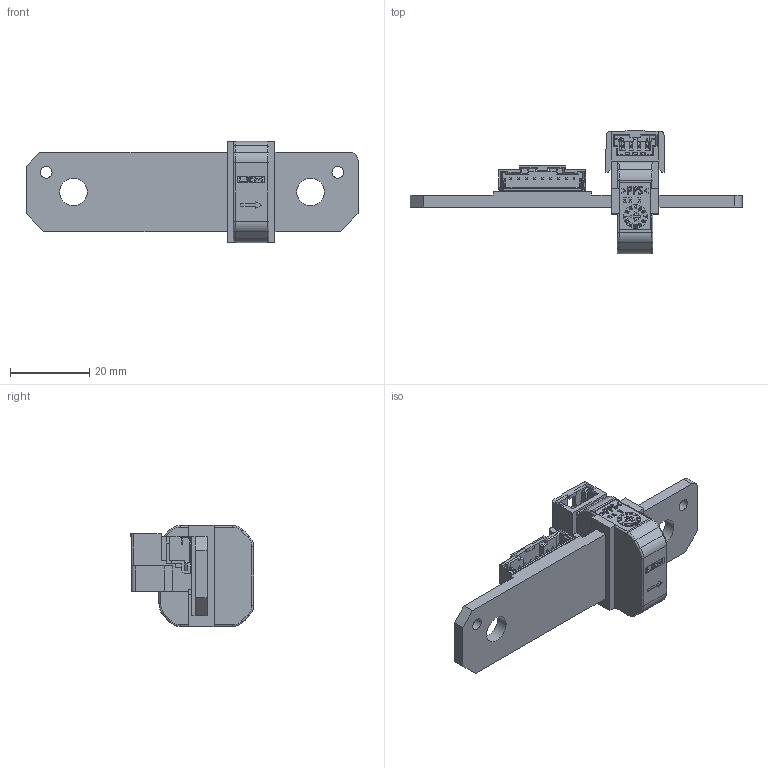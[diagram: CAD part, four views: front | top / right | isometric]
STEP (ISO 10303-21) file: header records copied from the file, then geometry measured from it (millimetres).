
FILE_DESCRIPTION(('Creo Elements/Direct Modeling STEP Export'),'2;1');
FILE_NAME('HSU04 BBOX.stp','2025-04-29T16:31:03',(''),(''),'Creo Elements/Direct Modeling STEP processor for AP214 (Solid Model)','Creo Elements/Direct Modeling 20.3D 14-Nov-2022 (C) Parametric Technology GmbH','');
FILE_SCHEMA(('AUTOMOTIVE_DESIGN { 1 0 10303 214 1 1 1 1 }'));
Length unit declared in the file: millimetre
Products named in the file (2): HSU04 BBOX
Assembly tree (1 placements, depth 2):
  HSU04 BBOX
    HSU04 BBOX
Bounding box: 84 x 31.24 x 25.6 mm (x, y, z)
Volume: 11961.2 mm3; surface area: 7642.2 mm2
Topology: 1 solids, 16 shells, 1285 faces, 3461 edges, 2264 vertices
Faces by surface type: plane 1104, cylinder 163, torus 14, cone 2, extrusion 2
Entity records: 49431 total; most frequent: CARTESIAN_POINT 7055, ORIENTED_EDGE 6922, DIRECTION 6301, EDGE_CURVE 3461, VECTOR 3097, LINE 3095, VERTEX_POINT 2264, AXIS2_PLACEMENT_3D 1602
